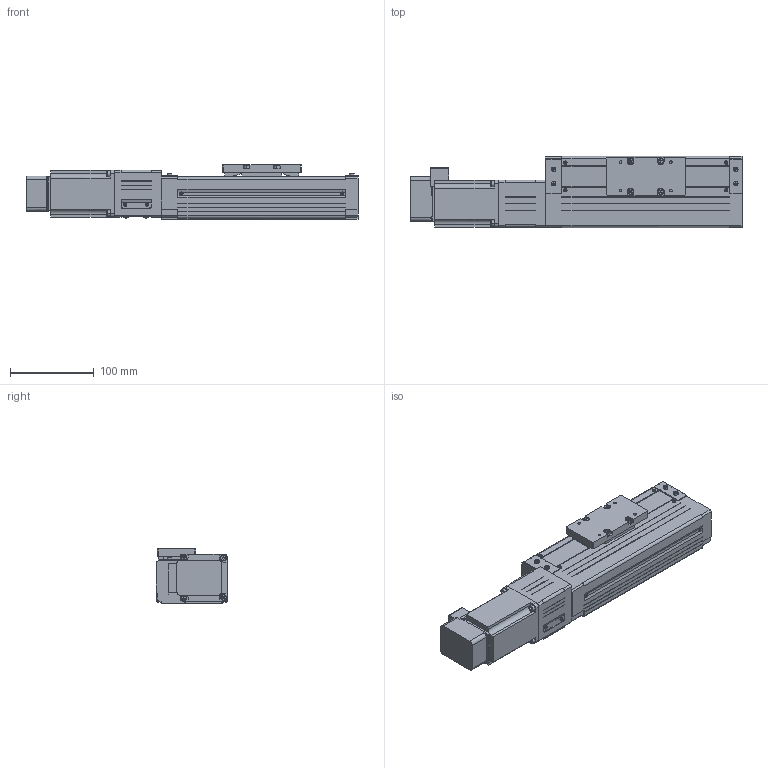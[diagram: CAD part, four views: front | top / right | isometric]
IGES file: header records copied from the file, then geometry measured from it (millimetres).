
Global section: file name: No Iges File Name specified; native system: AutoDesk Inventor R10; preprocessor: AutoDesk Inventor Iges Exporter R10; author: No Author specified; organization: No Organization specified; date: 20110702.132657; units: millimetre
Bounding box: 396.5 x 85 x 65 mm (x, y, z)
Surface area: 227280 mm2 (no closed solid volume)
Topology: 0 solids, 0 shells, 1075 faces, 6588 edges, 6560 vertices
Faces by surface type: bspline 1075
